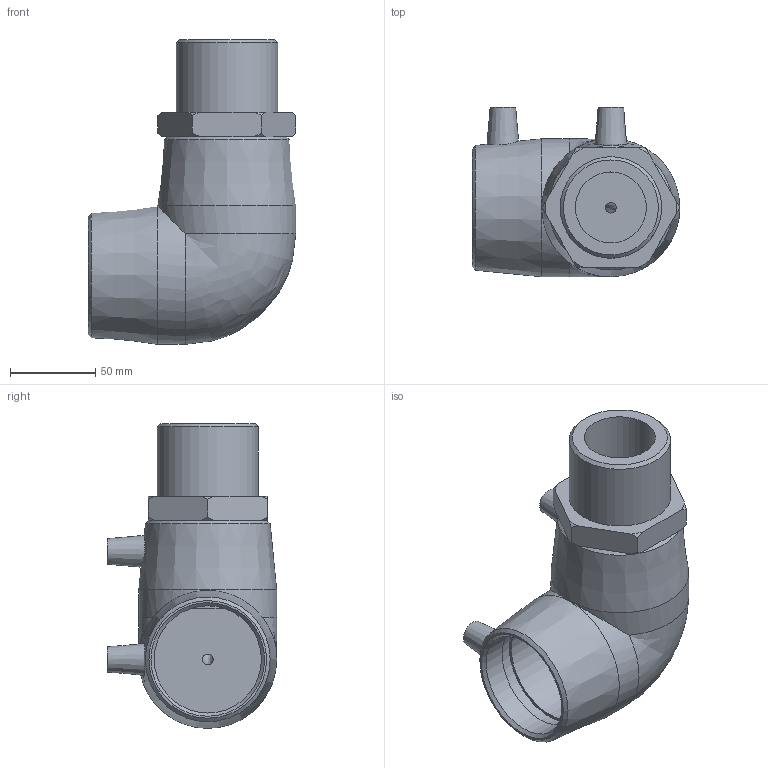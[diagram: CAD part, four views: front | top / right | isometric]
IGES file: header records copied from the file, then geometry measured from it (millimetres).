
Global section: file name: 497504063020.ipt; native system: Autodesk Inventor 2015; preprocessor: unknown; author: KIM; date: 20190421.151321; units: millimetre
Bounding box: 122 x 99.5 x 179 mm (x, y, z)
Volume: 664084.3 mm3; surface area: 108884 mm2
Topology: 2 solids, 2 shells, 60 faces, 146 edges, 98 vertices
Faces by surface type: plane 22, cone 19, revolution 12, cylinder 6, bspline 1
Full cylindrical faces by diameter (mm): 4 x2, 59.614 x1, 63 x1, 81 x2
